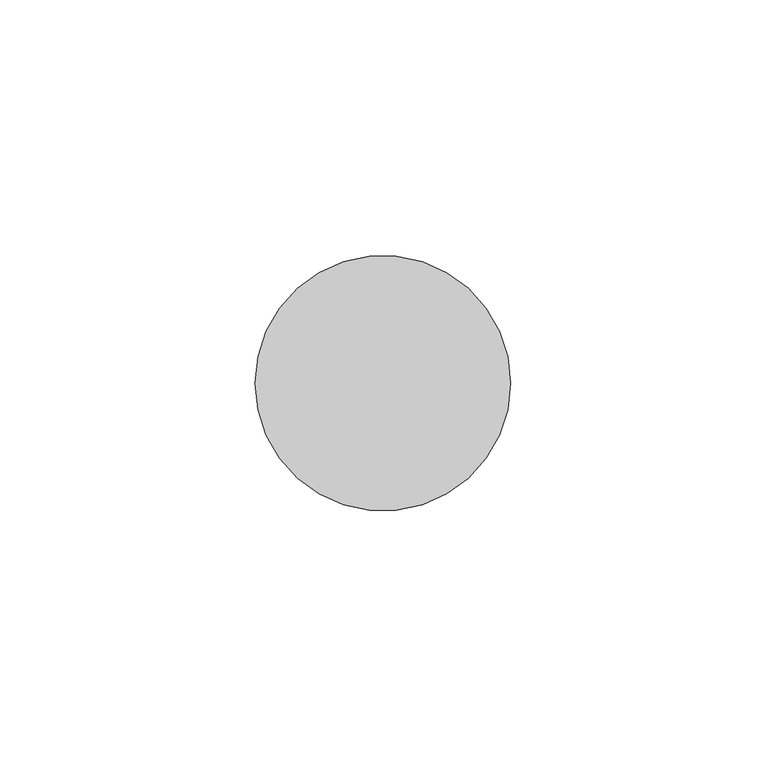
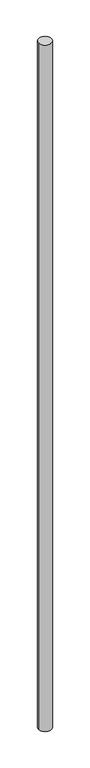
"""IFC4 building model written with IfcOpenShell, lengths in millimetres: member geometry, 圓形豎框 : 25mm 半徑."""

from ifc_helpers import new_model, si_unit, point, frame, origin, origin_2d, place, context, project, spatial, circle_curve, trimmed, segment, composite_curve, outline, extrude, source, transform, mapped, element, save


def member_b493c0ce(model_context):
    return source(origin(), model_context, "Body", "SweptSolid", [
        extrude(outline(composite_curve([segment(trimmed(circle_curve(origin_2d(), 25.0), [point((25.0, 0.0))], [point((-25.0, 0.0))], False, "CARTESIAN"), True, "CONTINUOUS"), segment(trimmed(circle_curve(origin_2d(), 25.0), [point((-25.0, 0.0))], [point((25.0, 0.0))], False, "CARTESIAN"), True, "CONTINUOUS")], self_intersect=False)), frame((0.0, 0.0, -2779.1635887), z_axis=(0.0, 0.0, 1.0), x_axis=(1.0, 0.0, 0.0)), (0.0, 0.0, 1.0), 2779.1635887),
    ])


if __name__ == "__main__":
    model = new_model("IFC4")
    model_context = context("Model", 3, world=origin())
    ifc_project = project(units=[si_unit("LENGTHUNIT", "METRE", prefix="MILLI")], contexts=[model_context])
    site = spatial("IfcSite", under=ifc_project)
    building = spatial("IfcBuilding", under=site)
    placement = place(None, origin())
    member_shape = member_b493c0ce(model_context)
    element("IfcMember", 1, ObjectType="圓形豎框 : 25mm 半徑", at=placement, inside=building, context=model_context, shape_type="MappedRepresentation", body=[
        mapped(member_shape, transform((0.0, 0.0, 0.0), x_axis=(1.0, 0.0, 0.0), y_axis=(0.0, 1.0, 0.0), z_axis=(0.0, 0.0, 1.0))),
    ])
    save(model, "model.ifc")
